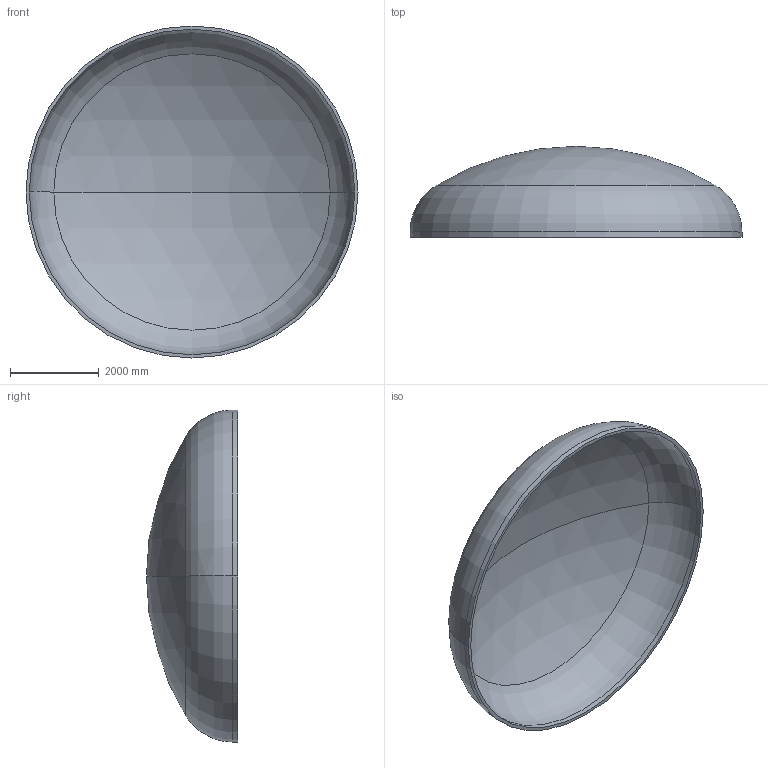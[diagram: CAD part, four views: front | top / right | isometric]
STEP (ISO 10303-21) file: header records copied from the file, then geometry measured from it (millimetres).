
FILE_DESCRIPTION (( 'STEP AP203' ), '1' );
FILE_NAME ('DIN 28013 Korbbogenform_-_Boden DIN 28013 - 7500 x 120 - I - s=74.step', '2016-07-04T10:55:45', ( '' ), ( '' ), 'SwSTEP 2.0', 'SolidWorks 2013', '' );
FILE_SCHEMA (( 'CONFIG_CONTROL_DESIGN' ));
Length unit declared in the file: millimetre
Products named in the file (1): DIN 28013 Korbbogenform_-_Boden DIN 28013 - 7500 x 120 - I - s=74
Bounding box: 7500 x 2056.54 x 7500 mm (x, y, z)
Volume: 4676292546.7 mm3; surface area: 128124085.7 mm2
Topology: 1 solids, 1 shells, 13 faces, 24 edges, 14 vertices
Faces by surface type: torus 4, cylinder 4, sphere 4, plane 1
Entity records: 407 total; most frequent: DIRECTION 72, CARTESIAN_POINT 52, ORIENTED_EDGE 48, AXIS2_PLACEMENT_3D 34, EDGE_CURVE 24, CIRCLE 20, EDGE_LOOP 14, VERTEX_POINT 14
